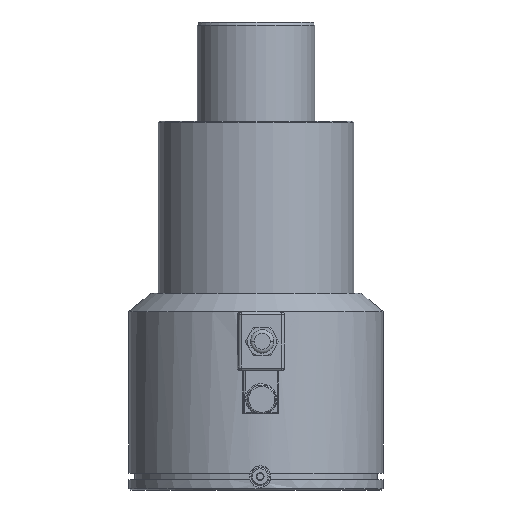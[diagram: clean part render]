
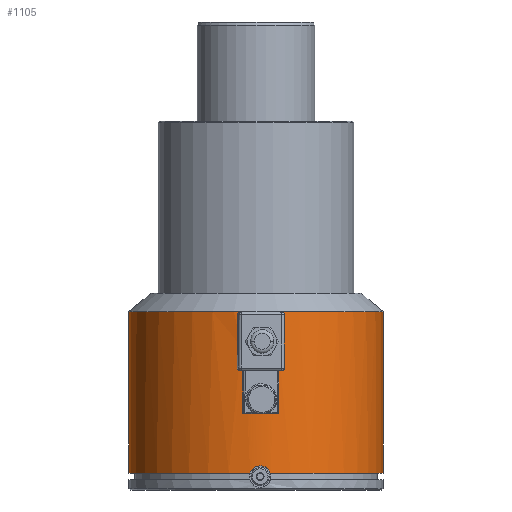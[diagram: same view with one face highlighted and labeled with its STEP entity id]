
A CAD part, front view. The second image highlights one B-rep face of the part: STEP entity #1105.
In plain terms, the highlighted cylindrical face has radius 97.5 mm (diameter 195 mm), a partial arc.
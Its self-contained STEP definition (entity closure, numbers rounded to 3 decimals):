
#85=CARTESIAN_POINT('Axis2P3D Location',(0.,0.,-9.)) ;
#277=CARTESIAN_POINT('Line Origine',(-97.5,0.,-15.5)) ;
#281=CARTESIAN_POINT('Vertex',(-97.5,0.,-18.)) ;
#283=CARTESIAN_POINT('Vertex',(-97.5,0.,105.735)) ;
#290=CARTESIAN_POINT('Vertex',(97.5,0.,105.735)) ;
#293=CARTESIAN_POINT('Line Origine',(97.5,0.,-15.5)) ;
#297=CARTESIAN_POINT('Vertex',(97.5,0.,-18.)) ;
#318=CARTESIAN_POINT('Control Point',(-10.303,-96.954,90.191)) ;
#319=CARTESIAN_POINT('Control Point',(-9.023,-97.09,92.526)) ;
#320=CARTESIAN_POINT('Control Point',(-7.226,-97.26,94.575)) ;
#321=CARTESIAN_POINT('Control Point',(-4.998,-97.419,96.19)) ;
#322=CARTESIAN_POINT('Control Point',(-0.102,-97.584,98.273)) ;
#323=CARTESIAN_POINT('Control Point',(5.203,-97.414,98.149)) ;
#324=CARTESIAN_POINT('Control Point',(7.732,-97.238,97.535)) ;
#325=CARTESIAN_POINT('Control Point',(11.441,-96.859,95.734)) ;
#326=CARTESIAN_POINT('Control Point',(14.315,-96.452,92.859)) ;
#327=CARTESIAN_POINT('Control Point',(15.253,-96.305,91.645)) ;
#328=CARTESIAN_POINT('Control Point',(17.41,-95.945,87.966)) ;
#329=CARTESIAN_POINT('Control Point',(18.201,-95.784,83.688)) ;
#330=CARTESIAN_POINT('Control Point',(18.068,-95.811,80.87)) ;
#331=CARTESIAN_POINT('Control Point',(17.308,-95.96,78.191)) ;
#332=CARTESIAN_POINT('Control Point',(16.013,-96.176,75.809)) ;
#333=CARTESIAN_POINT('Vertex',(-10.303,-96.954,90.191)) ;
#335=CARTESIAN_POINT('Vertex',(16.013,-96.176,75.809)) ;
#365=CARTESIAN_POINT('Control Point',(16.013,-96.176,75.809)) ;
#366=CARTESIAN_POINT('Control Point',(14.743,-96.388,73.474)) ;
#367=CARTESIAN_POINT('Control Point',(12.959,-96.663,71.425)) ;
#368=CARTESIAN_POINT('Control Point',(10.744,-96.954,69.81)) ;
#369=CARTESIAN_POINT('Control Point',(5.867,-97.407,67.727)) ;
#370=CARTESIAN_POINT('Control Point',(0.56,-97.551,67.851)) ;
#371=CARTESIAN_POINT('Control Point',(-1.974,-97.525,68.465)) ;
#372=CARTESIAN_POINT('Control Point',(-5.7,-97.366,70.266)) ;
#373=CARTESIAN_POINT('Control Point',(-8.592,-97.129,73.141)) ;
#374=CARTESIAN_POINT('Control Point',(-9.537,-97.038,74.355)) ;
#375=CARTESIAN_POINT('Control Point',(-11.712,-96.806,78.034)) ;
#376=CARTESIAN_POINT('Control Point',(-12.511,-96.692,82.312)) ;
#377=CARTESIAN_POINT('Control Point',(-12.377,-96.712,85.13)) ;
#378=CARTESIAN_POINT('Control Point',(-11.609,-96.815,87.809)) ;
#379=CARTESIAN_POINT('Control Point',(-10.303,-96.954,90.191)) ;
#993=CARTESIAN_POINT('Axis2P3D Location',(0.,0.,105.735)) ;
#1056=CARTESIAN_POINT('Axis2P3D Location',(0.,0.,-18.)) ;
#1060=CARTESIAN_POINT('Vertex',(11.058,-96.871,-18.)) ;
#1063=CARTESIAN_POINT('Axis2P3D Location',(0.,0.,-18.)) ;
#1067=CARTESIAN_POINT('Vertex',(-4.525,-97.395,-18.)) ;
#1071=CARTESIAN_POINT('Control Point',(-4.525,-97.395,-18.)) ;
#1072=CARTESIAN_POINT('Control Point',(-4.375,-97.402,-17.567)) ;
#1073=CARTESIAN_POINT('Control Point',(-4.188,-97.41,-17.147)) ;
#1074=CARTESIAN_POINT('Control Point',(-3.968,-97.419,-16.745)) ;
#1075=CARTESIAN_POINT('Vertex',(-3.968,-97.419,-16.745)) ;
#1079=CARTESIAN_POINT('Control Point',(11.058,-96.871,-18.)) ;
#1080=CARTESIAN_POINT('Control Point',(10.812,-96.899,-17.29)) ;
#1081=CARTESIAN_POINT('Control Point',(10.487,-96.935,-16.607)) ;
#1082=CARTESIAN_POINT('Control Point',(10.084,-96.979,-15.965)) ;
#1083=CARTESIAN_POINT('Control Point',(8.668,-97.122,-14.194)) ;
#1084=CARTESIAN_POINT('Control Point',(6.71,-97.283,-12.969)) ;
#1085=CARTESIAN_POINT('Control Point',(5.234,-97.378,-12.469)) ;
#1086=CARTESIAN_POINT('Control Point',(2.113,-97.507,-12.175)) ;
#1087=CARTESIAN_POINT('Control Point',(-0.827,-97.513,-13.286)) ;
#1088=CARTESIAN_POINT('Control Point',(-2.157,-97.486,-14.197)) ;
#1089=CARTESIAN_POINT('Control Point',(-3.223,-97.45,-15.383)) ;
#1090=CARTESIAN_POINT('Control Point',(-3.968,-97.419,-16.745)) ;
#86=DIRECTION('Axis2P3D Direction',(0.,0.,-1.)) ;
#87=DIRECTION('Axis2P3D XDirection',(1.,0.,0.)) ;
#278=DIRECTION('Vector Direction',(0.,0.,-1.)) ;
#294=DIRECTION('Vector Direction',(0.,0.,-1.)) ;
#994=DIRECTION('Axis2P3D Direction',(0.,0.,1.)) ;
#1057=DIRECTION('Axis2P3D Direction',(0.,0.,-1.)) ;
#1064=DIRECTION('Axis2P3D Direction',(0.,0.,-1.)) ;
#88=AXIS2_PLACEMENT_3D('Cylinder Axis2P3D',#85,#86,#87) ;
#995=AXIS2_PLACEMENT_3D('Circle Axis2P3D',#993,#994,$) ;
#1058=AXIS2_PLACEMENT_3D('Circle Axis2P3D',#1056,#1057,$) ;
#1065=AXIS2_PLACEMENT_3D('Circle Axis2P3D',#1063,#1064,$) ;
#1093=ORIENTED_EDGE('',*,*,#1062,.F.) ;
#1094=ORIENTED_EDGE('',*,*,#299,.T.) ;
#1095=ORIENTED_EDGE('',*,*,#997,.F.) ;
#1096=ORIENTED_EDGE('',*,*,#285,.F.) ;
#1097=ORIENTED_EDGE('',*,*,#1069,.F.) ;
#1098=ORIENTED_EDGE('',*,*,#1077,.T.) ;
#1099=ORIENTED_EDGE('',*,*,#1091,.F.) ;
#1102=ORIENTED_EDGE('',*,*,#337,.T.) ;
#1103=ORIENTED_EDGE('',*,*,#380,.T.) ;
#1104=FACE_BOUND('',#1101,.T.) ;
#279=VECTOR('Line Direction',#278,1.) ;
#295=VECTOR('Line Direction',#294,1.) ;
#1105=ADVANCED_FACE('',(#1100,#1104),#89,.T.) ;
#317=B_SPLINE_CURVE_WITH_KNOTS('',5,(#318,#319,#320,#321,#322,#323,#324,#325,#326,#327,#328,#329,#330,#331,#332),.UNSPECIFIED.,.F.,.U.,(6,3,3,3,6),(0.,18.851,36.724,47.509,66.742),.UNSPECIFIED.) ;
#364=B_SPLINE_CURVE_WITH_KNOTS('',5,(#365,#366,#367,#368,#369,#370,#371,#372,#373,#374,#375,#376,#377,#378,#379),.UNSPECIFIED.,.F.,.U.,(6,3,3,3,6),(0.,18.851,36.724,47.509,66.742),.UNSPECIFIED.) ;
#1070=B_SPLINE_CURVE_WITH_KNOTS('',3,(#1071,#1072,#1073,#1074),.UNSPECIFIED.,.F.,.U.,(4,4),(0.,1.945),.UNSPECIFIED.) ;
#1078=B_SPLINE_CURVE_WITH_KNOTS('',5,(#1079,#1080,#1081,#1082,#1083,#1084,#1085,#1086,#1087,#1088,#1089,#1090),.UNSPECIFIED.,.F.,.U.,(6,3,3,6),(0.,5.318,15.966,26.944),.UNSPECIFIED.) ;
#996=CIRCLE('generated circle',#995,97.5) ;
#1059=CIRCLE('generated circle',#1058,97.5) ;
#1066=CIRCLE('generated circle',#1065,97.5) ;
#89=CYLINDRICAL_SURFACE('generated cylinder',#88,97.5) ;
#285=EDGE_CURVE('',#282,#284,#280,.F.) ;
#299=EDGE_CURVE('',#298,#291,#296,.F.) ;
#337=EDGE_CURVE('',#334,#336,#317,.T.) ;
#380=EDGE_CURVE('',#336,#334,#364,.T.) ;
#997=EDGE_CURVE('',#284,#291,#996,.T.) ;
#1062=EDGE_CURVE('',#298,#1061,#1059,.T.) ;
#1069=EDGE_CURVE('',#1068,#282,#1066,.T.) ;
#1077=EDGE_CURVE('',#1068,#1076,#1070,.T.) ;
#1091=EDGE_CURVE('',#1061,#1076,#1078,.T.) ;
#1092=EDGE_LOOP('',(#1093,#1094,#1095,#1096,#1097,#1098,#1099)) ;
#1101=EDGE_LOOP('',(#1102,#1103)) ;
#1100=FACE_OUTER_BOUND('',#1092,.T.) ;
#280=LINE('Line',#277,#279) ;
#296=LINE('Line',#293,#295) ;
#282=VERTEX_POINT('',#281) ;
#284=VERTEX_POINT('',#283) ;
#291=VERTEX_POINT('',#290) ;
#298=VERTEX_POINT('',#297) ;
#334=VERTEX_POINT('',#333) ;
#336=VERTEX_POINT('',#335) ;
#1061=VERTEX_POINT('',#1060) ;
#1068=VERTEX_POINT('',#1067) ;
#1076=VERTEX_POINT('',#1075) ;
